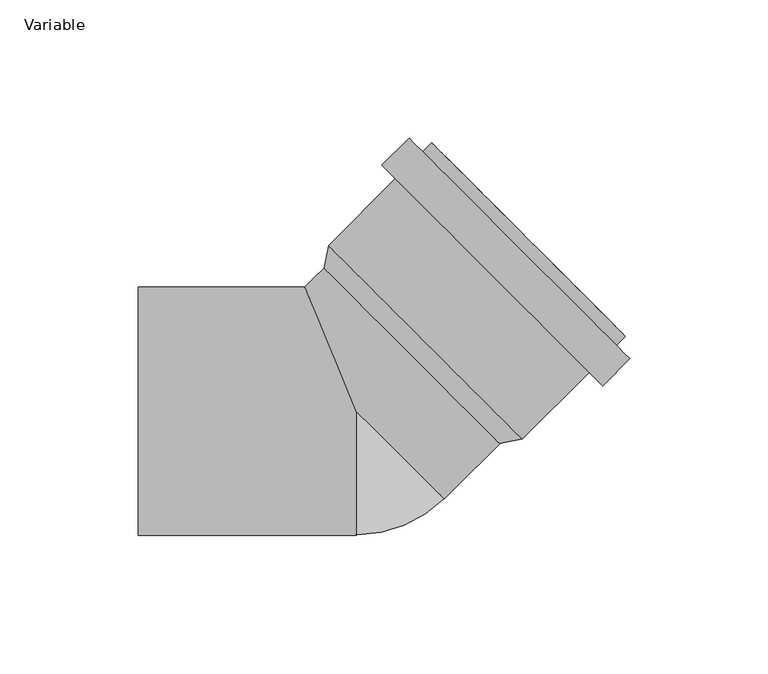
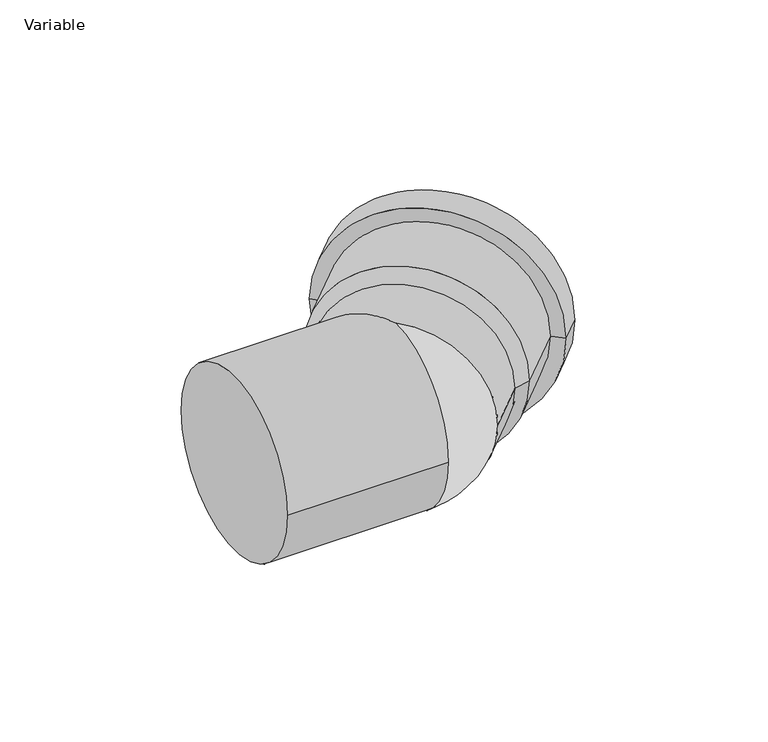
"""IFC4 building model written with IfcOpenShell, lengths in millimetres: pipe fitting geometry, AliaxisFR_Friaphon_ElbowMF_FR : Variable."""

from ifc_helpers import new_model, si_unit, point, frame, origin, place, context, project, spatial, polyline, circle_curve, ellipse_curve, trimmed, source, transform, mapped, element, save
from ifc_brep_helpers import plane_surface, cylinder_surface, revolved_surface, advanced_brep


def variable_ec2f790b(model_context):
    return source(origin(), model_context, "Body", "AdvancedBrep", [
        advanced_brep(
        [(97.2978931, 27.1529004, 0.0), (27.1529004, 97.2978931, 0.0), (30.4055916, 94.0452019, 0.0), (94.0452019, 30.4055916, 0.0), (89.0954544, 9.1923882, 0.0), (9.1923882, 89.0954544, 0.0), (19.0211724, 98.9242387, 0.0), (98.9242387, 19.0211724, 0.0), (84.2164176, 14.0714249, 0.0), (14.0714249, 84.2164176, 0.0), (60.0333657, -10.111627, 0.0), (-10.111627, 60.0333657, 0.0), (-11.7379726, 51.9016377, 0.0), (51.9016377, -11.7379726, 0.0), (94.0452019, 23.9002092, 0.0), (23.9002092, 94.0452019, 0.0)],
        [
            (0, 1, circle_curve(frame((62.2253967, 62.2253967, 0.0), z_axis=(0.707106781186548, 0.7071067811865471, 0.0), x_axis=(-0.7071067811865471, 0.707106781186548, 0.0)), 49.6)),
            (1, 2),
            (2, 3, circle_curve(frame((62.2253967, 62.2253967, 0.0), z_axis=(-0.707106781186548, -0.7071067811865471, 0.0), x_axis=(-0.7071067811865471, 0.707106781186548, 0.0)), 45.0)),
            (3, 0),
            (1, 0, circle_curve(frame((62.2253967, 62.2253967, 0.0), z_axis=(0.707106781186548, 0.7071067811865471, 0.0), x_axis=(-0.7071067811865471, 0.707106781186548, 0.0)), 49.6)),
            (3, 2, circle_curve(frame((62.2253967, 62.2253967, 0.0), z_axis=(-0.707106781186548, -0.7071067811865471, 0.0), x_axis=(-0.7071067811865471, 0.707106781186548, 0.0)), 45.0)),
            (4, 5, circle_curve(frame((49.1439213, 49.1439213, 0.0), z_axis=(0.707106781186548, 0.7071067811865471, 0.0), x_axis=(-0.7071067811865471, 0.707106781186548, 0.0)), 56.5)),
            (5, 6),
            (6, 7, circle_curve(frame((58.9727056, 58.9727056, 0.0), z_axis=(-0.707106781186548, -0.7071067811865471, 0.0), x_axis=(-0.7071067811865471, 0.707106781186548, 0.0)), 56.5)),
            (7, 4),
            (5, 4, circle_curve(frame((49.1439213, 49.1439213, 0.0), z_axis=(0.707106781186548, 0.7071067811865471, 0.0), x_axis=(-0.7071067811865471, 0.707106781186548, 0.0)), 56.5)),
            (7, 6, circle_curve(frame((58.9727056, 58.9727056, 0.0), z_axis=(-0.707106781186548, -0.7071067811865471, 0.0), x_axis=(-0.7071067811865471, 0.707106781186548, 0.0)), 56.5)),
            (8, 9, circle_curve(frame((49.1439213, 49.1439213, 0.0), z_axis=(0.707106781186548, 0.7071067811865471, 0.0), x_axis=(-0.7071067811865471, 0.707106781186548, 0.0)), 49.6)),
            (9, 5),
            (4, 8),
            (9, 8, circle_curve(frame((49.1439213, 49.1439213, 0.0), z_axis=(0.707106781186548, 0.7071067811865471, 0.0), x_axis=(-0.7071067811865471, 0.707106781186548, 0.0)), 49.6)),
            (10, 11, circle_curve(frame((24.9608694, 24.9608694, 0.0), z_axis=(0.707106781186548, 0.7071067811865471, 0.0), x_axis=(-0.7071067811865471, 0.707106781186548, 0.0)), 49.6)),
            (11, 9),
            (8, 10),
            (11, 10, circle_curve(frame((24.9608694, 24.9608694, 0.0), z_axis=(0.707106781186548, 0.7071067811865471, 0.0), x_axis=(-0.7071067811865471, 0.707106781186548, 0.0)), 49.6)),
            (2, 12),
            (12, 13, circle_curve(frame((20.0818326, 20.0818326, 0.0), z_axis=(-0.707106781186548, -0.7071067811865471, 0.0), x_axis=(-0.7071067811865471, 0.707106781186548, 0.0)), 45.0)),
            (13, 3),
            (13, 12, circle_curve(frame((20.0818326, 20.0818326, 0.0), z_axis=(-0.707106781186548, -0.7071067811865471, 0.0), x_axis=(-0.7071067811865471, 0.707106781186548, 0.0)), 45.0)),
            (12, 11),
            (10, 13),
            (14, 15, circle_curve(frame((58.9727056, 58.9727056, 0.0), z_axis=(0.707106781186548, 0.7071067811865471, 0.0), x_axis=(-0.7071067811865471, 0.707106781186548, 0.0)), 49.6)),
            (15, 1),
            (0, 14),
            (15, 14, circle_curve(frame((58.9727056, 58.9727056, 0.0), z_axis=(0.707106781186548, 0.7071067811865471, 0.0), x_axis=(-0.7071067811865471, 0.707106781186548, 0.0)), 49.6)),
            (6, 15),
            (14, 7),
        ],
        [
            plane_surface(frame((62.2253967, 62.2253967, 0.0), z_axis=(0.707106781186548, 0.7071067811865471, 0.0), x_axis=(-0.7071067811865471, 0.707106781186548, 0.0))),
            cylinder_surface(frame((20.0818326, 20.0818326, 0.0), z_axis=(-0.707106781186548, -0.7071067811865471, 0.0), x_axis=(-0.7071067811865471, 0.707106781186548, 0.0)), 56.5),
            plane_surface(frame((49.1439213, 49.1439213, 0.0), z_axis=(-0.707106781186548, -0.7071067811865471, 0.0), x_axis=(-0.7071067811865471, 0.707106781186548, 0.0))),
            cylinder_surface(frame((20.0818326, 20.0818326, 0.0), z_axis=(-0.707106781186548, -0.7071067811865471, 0.0), x_axis=(-0.7071067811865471, 0.707106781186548, 0.0)), 49.6),
            revolved_surface(polyline([(-11.737972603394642, 51.90163770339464, 0.0), (30.40559159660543, 94.04520190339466, 0.0)]), (20.0818326, 20.0818326, 0.0), (-0.707106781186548, -0.7071067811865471, 0.0)),
            revolved_surface(polyline([(-10.111627, 60.0333657, 0.0), (-11.7379726, 51.9016377, 0.0)]), (20.0818326, 20.0818326, 0.0), (-0.707106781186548, -0.7071067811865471, 0.0)),
            plane_surface(frame((58.9727056, 58.9727056, 0.0), z_axis=(0.707106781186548, 0.7071067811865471, 0.0), x_axis=(-0.7071067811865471, 0.707106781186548, 0.0))),
        ],
        [
            (0, [[1, 2, 3, 4]]),
            (0, [[5, -4, 6, -2]]),
            (1, [[7, 8, 9, 10]]),
            (1, [[11, -10, 12, -8]]),
            (2, [[13, 14, -7, 15]]),
            (2, [[16, -15, -11, -14]]),
            (3, [[17, 18, -13, 19]]),
            (3, [[20, -19, -16, -18]]),
            (4, [[-3, 21, 22, 23]]),
            (4, [[-6, -23, 24, -21]]),
            (5, [[-22, 25, -17, 26]]),
            (5, [[-24, -26, -20, -25]]),
            (3, [[27, 28, -1, 29]]),
            (3, [[30, -29, -5, -28]]),
            (6, [[-9, 31, -27, 32]]),
            (6, [[-12, -32, -30, -31]]),
        ],
    ),
        advanced_brep(
        [(-8.4852814, 55.1543289, 0.0), (23.3345238, 23.3345238, 45.0), (55.1543289, -8.4852814, 0.0), (23.3345238, 23.3345238, -45.0), (31.8198052, -31.8198052, 0.0), (-18.6396103, 45.0, 0.0), (0.0, 0.0, 45.0), (0.0, 0.0, -45.0), (-79.0, -45.0, 0.0), (-79.0, 45.0, 0.0), (0.0, -45.0, 0.0)],
        [
            (0, 1, circle_curve(frame((23.3345238, 23.3345238, 0.0), z_axis=(0.7071067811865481, 0.707106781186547, 0.0), x_axis=(-0.707106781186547, 0.7071067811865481, 0.0)), 45.0)),
            (1, 2, circle_curve(frame((23.3345238, 23.3345238, 0.0), z_axis=(0.7071067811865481, 0.707106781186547, 0.0), x_axis=(-0.707106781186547, 0.7071067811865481, 0.0)), 45.0)),
            (2, 3, circle_curve(frame((23.3345238, 23.3345238, 0.0), z_axis=(0.7071067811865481, 0.707106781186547, 0.0), x_axis=(-0.707106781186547, 0.7071067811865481, 0.0)), 45.0)),
            (3, 0, circle_curve(frame((23.3345238, 23.3345238, 0.0), z_axis=(0.7071067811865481, 0.707106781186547, 0.0), x_axis=(-0.707106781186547, 0.7071067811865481, 0.0)), 45.0)),
            (4, 2),
            (0, 5),
            (5, 6, ellipse_curve(frame((0.0, 0.0, 0.0), z_axis=(0.923879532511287, 0.38268343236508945, 0.0), x_axis=(0.38268343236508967, -0.923879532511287, 0.0)), 48.707649, 45.0)),
            (6, 4, circle_curve(frame((0.0, 0.0, 0.0), z_axis=(0.7071067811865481, 0.707106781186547, 0.0), x_axis=(-0.707106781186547, 0.7071067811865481, 0.0)), 45.0)),
            (4, 7, circle_curve(frame((0.0, 0.0, 0.0), z_axis=(0.7071067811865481, 0.707106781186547, 0.0), x_axis=(-0.707106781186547, 0.7071067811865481, 0.0)), 45.0)),
            (7, 5, ellipse_curve(frame((0.0, 0.0, 0.0), z_axis=(0.923879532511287, 0.38268343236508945, 0.0), x_axis=(0.38268343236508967, -0.923879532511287, 0.0)), 48.707649, 45.0)),
            (8, 9, circle_curve(frame((-79.0, 0.0, 0.0), z_axis=(-1.0, 0.0, 0.0), x_axis=(0.0, 1.0, 0.0)), 45.0)),
            (9, 8, circle_curve(frame((-79.0, 0.0, 0.0), z_axis=(-1.0, 0.0, 0.0), x_axis=(0.0, 1.0, 0.0)), 45.0)),
            (8, 10),
            (10, 6, circle_curve(frame((0.0, 0.0, 0.0), z_axis=(-1.0, 0.0, 0.0), x_axis=(0.0, 1.0, 0.0)), 45.0)),
            (5, 9),
            (7, 10, circle_curve(frame((0.0, 0.0, 0.0), z_axis=(-1.0, 0.0, 0.0), x_axis=(0.0, 1.0, 0.0)), 45.0)),
        ],
        [
            plane_surface(frame((23.3345238, 23.3345238, 0.0), z_axis=(0.7071067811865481, 0.707106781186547, 0.0), x_axis=(0.0, 0.0, 1.0))),
            cylinder_surface(frame((0.0, 0.0, 0.0), z_axis=(-0.7071067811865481, -0.707106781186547, 0.0), x_axis=(-0.707106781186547, 0.7071067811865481, 0.0)), 45.0),
            plane_surface(frame((-79.0, 0.0, 0.0), z_axis=(-1.0, 0.0, 0.0), x_axis=(0.0, 0.0, 1.0))),
            cylinder_surface(frame((-79.0, 0.0, 0.0), z_axis=(-1.0, 0.0, 0.0), x_axis=(0.0, 1.0, 0.0)), 45.0),
            revolved_surface(trimmed(ellipse_curve(frame((0.0, 0.0, 0.0), z_axis=(0.7071067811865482, 0.707106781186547, 0.0), x_axis=(-0.707106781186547, 0.7071067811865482, 0.0)), 45.0, 45.0), [point((0.0, 0.0, 45.0))], [point((0.0, 0.0, -45.0))], True, "CARTESIAN"), (0.0, 0.0, 45.0), (0.0, 0.0, -1.0)),
        ],
        [
            (0, [[1, 2, 3, 4]]),
            (1, [[5, -2, -1, 6, 7, 8]]),
            (1, [[-5, 9, 10, -6, -4, -3]]),
            (2, [[11, 12]]),
            (3, [[-11, 13, 14, -7, 15]]),
            (3, [[-12, -15, -10, 16, -13]]),
            (4, [[-14, -16, -9, -8]]),
        ],
    ),
    ])


if __name__ == "__main__":
    model = new_model("IFC4")
    model_context = context("Model", 3, world=origin())
    ifc_project = project(units=[si_unit("LENGTHUNIT", "METRE", prefix="MILLI")], contexts=[model_context])
    site = spatial("IfcSite", under=ifc_project)
    building = spatial("IfcBuilding", under=site)
    placement = place(None, origin())
    variable_shape = variable_ec2f790b(model_context)
    element("IfcPipeFitting", 1, ObjectType="AliaxisFR_Friaphon_ElbowMF_FR : Variable", at=placement, inside=building, context=model_context, shape_type="MappedRepresentation", body=[
        mapped(variable_shape, transform((0.0, 0.0, 0.0), x_axis=(1.0, 0.0, 0.0), y_axis=(0.0, 1.0, 0.0), z_axis=(0.0, 0.0, 1.0))),
    ])
    save(model, "model.ifc")
